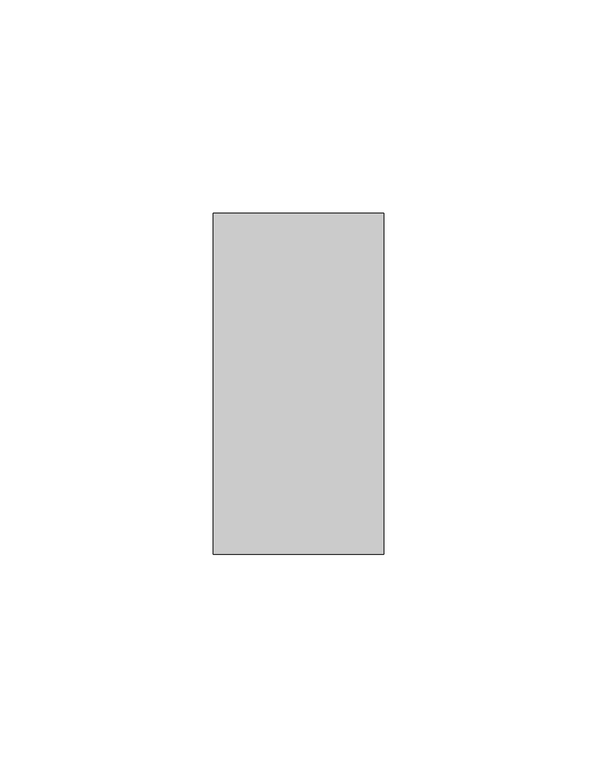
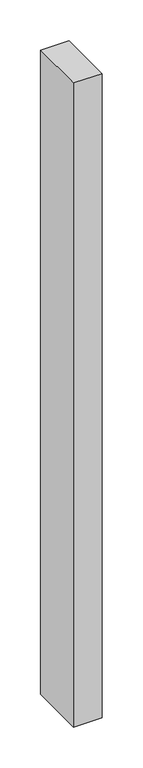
"""IFC4 building model written with IfcOpenShell, lengths in millimetres: member geometry, Obdélníková příčel : VERTI PANORAMA - vertikální."""

from ifc_helpers import new_model, si_unit, frame, origin, place, context, project, spatial, polyline, outline, extrude, source, transform, mapped, element, save


def member_7cbca1cd(model_context):
    return source(origin(), model_context, "Body", "SweptSolid", [
        extrude(outline(polyline([(-40.0, 40.0), (0.0, 40.0), (0.0, -40.0), (-40.0, -40.0), (-40.0, 40.0)])), frame((0.0, 0.0, -960.0), z_axis=(0.0, 0.0, 1.0), x_axis=(1.0, 0.0, 0.0)), (0.0, 0.0, 1.0), 960.0),
    ])


if __name__ == "__main__":
    model = new_model("IFC4")
    model_context = context("Model", 3, world=origin())
    ifc_project = project(units=[si_unit("LENGTHUNIT", "METRE", prefix="MILLI")], contexts=[model_context])
    site = spatial("IfcSite", under=ifc_project)
    building = spatial("IfcBuilding", under=site)
    placement = place(None, origin())
    member_shape = member_7cbca1cd(model_context)
    element("IfcMember", 1, ObjectType="Obdélníková příčel : VERTI PANORAMA - vertikální", at=placement, inside=building, context=model_context, shape_type="MappedRepresentation", body=[
        mapped(member_shape, transform((0.0, 0.0, 0.0), x_axis=(1.0, 0.0, 0.0), y_axis=(0.0, 1.0, 0.0), z_axis=(0.0, 0.0, 1.0))),
    ])
    save(model, "model.ifc")
